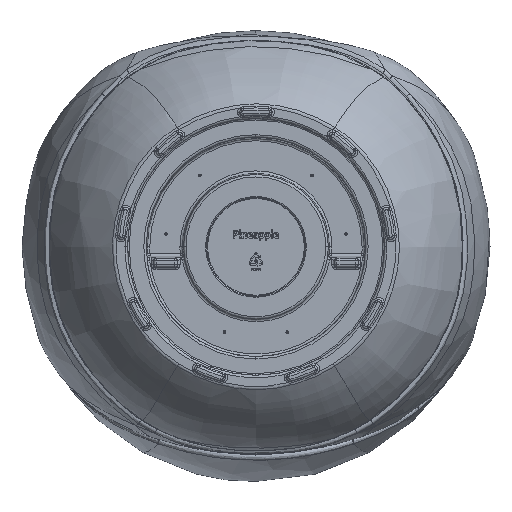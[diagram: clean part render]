
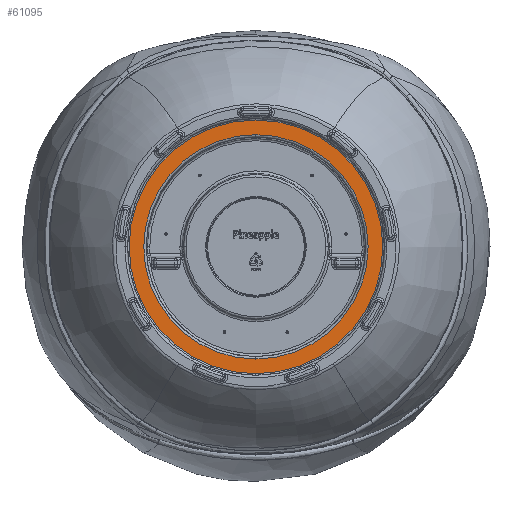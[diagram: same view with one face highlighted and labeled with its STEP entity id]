
A CAD part, front view. The second image highlights one B-rep face of the part: STEP entity #61095.
In plain terms, the highlighted planar face has unit normal (0, -1, 0).
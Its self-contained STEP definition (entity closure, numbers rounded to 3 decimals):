
#563 = ORIENTED_EDGE ( 'NONE', *, *, #7327, .T. ) ;
#2263 = CIRCLE ( 'NONE', #168475, 226.707 ) ;
#2784 = CARTESIAN_POINT ( 'NONE',  ( 0., 5., 0. ) ) ;
#3827 = DIRECTION ( 'NONE',  ( 0., 0., -1. ) ) ;
#7327 = EDGE_CURVE ( 'NONE', #79023, #155693, #2263, .T. ) ;
#9677 = CIRCLE ( 'NONE', #92627, 256.376 ) ;
#10282 = DIRECTION ( 'NONE',  ( 0., 1., 0. ) ) ;
#17916 = CARTESIAN_POINT ( 'NONE',  ( 0., 5., -226.707 ) ) ;
#21916 = CARTESIAN_POINT ( 'NONE',  ( 0., 5., -256.376 ) ) ;
#24136 = DIRECTION ( 'NONE',  ( 0., 1., 0. ) ) ;
#33105 = ORIENTED_EDGE ( 'NONE', *, *, #80054, .T. ) ;
#44255 = EDGE_LOOP ( 'NONE', ( #188112, #563 ) ) ;
#48539 = CARTESIAN_POINT ( 'NONE',  ( 0., 5., 256.376 ) ) ;
#50684 = EDGE_CURVE ( 'NONE', #155693, #79023, #178480, .T. ) ;
#54282 = CARTESIAN_POINT ( 'NONE',  ( 0., 5., 0. ) ) ;
#59395 = EDGE_LOOP ( 'NONE', ( #148013, #33105 ) ) ;
#59838 = PLANE ( 'NONE',  #87086 ) ;
#61095 = ADVANCED_FACE ( 'NONE', ( #201420, #204459 ), #59838, .T. ) ;
#62447 = CARTESIAN_POINT ( 'NONE',  ( 0., 5., 0. ) ) ;
#71936 = DIRECTION ( 'NONE',  ( 0., 0., -1. ) ) ;
#77771 = DIRECTION ( 'NONE',  ( 0., 0., -1. ) ) ;
#78544 = CARTESIAN_POINT ( 'NONE',  ( 0., 5., 222.125 ) ) ;
#79023 = VERTEX_POINT ( 'NONE', #197252 ) ;
#80054 = EDGE_CURVE ( 'NONE', #175784, #96986, #81362, .T. ) ;
#81362 = CIRCLE ( 'NONE', #154457, 256.376 ) ;
#87086 = AXIS2_PLACEMENT_3D ( 'NONE', #78544, #186822, #92106 ) ;
#92106 = DIRECTION ( 'NONE',  ( 0., 0., -1. ) ) ;
#92627 = AXIS2_PLACEMENT_3D ( 'NONE', #2784, #164047, #3827 ) ;
#96986 = VERTEX_POINT ( 'NONE', #21916 ) ;
#101992 = AXIS2_PLACEMENT_3D ( 'NONE', #54282, #24136, #71936 ) ;
#148013 = ORIENTED_EDGE ( 'NONE', *, *, #182539, .T. ) ;
#154457 = AXIS2_PLACEMENT_3D ( 'NONE', #62447, #205032, #170781 ) ;
#155693 = VERTEX_POINT ( 'NONE', #17916 ) ;
#164047 = DIRECTION ( 'NONE',  ( 0., -1., 0. ) ) ;
#168475 = AXIS2_PLACEMENT_3D ( 'NONE', #172466, #10282, #77771 ) ;
#170781 = DIRECTION ( 'NONE',  ( 0., 0., -1. ) ) ;
#172466 = CARTESIAN_POINT ( 'NONE',  ( 0., 5., 0. ) ) ;
#175784 = VERTEX_POINT ( 'NONE', #48539 ) ;
#178480 = CIRCLE ( 'NONE', #101992, 226.707 ) ;
#182539 = EDGE_CURVE ( 'NONE', #96986, #175784, #9677, .T. ) ;
#186822 = DIRECTION ( 'NONE',  ( 0., -1., 0. ) ) ;
#188112 = ORIENTED_EDGE ( 'NONE', *, *, #50684, .T. ) ;
#197252 = CARTESIAN_POINT ( 'NONE',  ( 0., 5., 226.707 ) ) ;
#201420 = FACE_OUTER_BOUND ( 'NONE', #59395, .T. ) ;
#204459 = FACE_BOUND ( 'NONE', #44255, .T. ) ;
#205032 = DIRECTION ( 'NONE',  ( 0., -1., 0. ) ) ;
